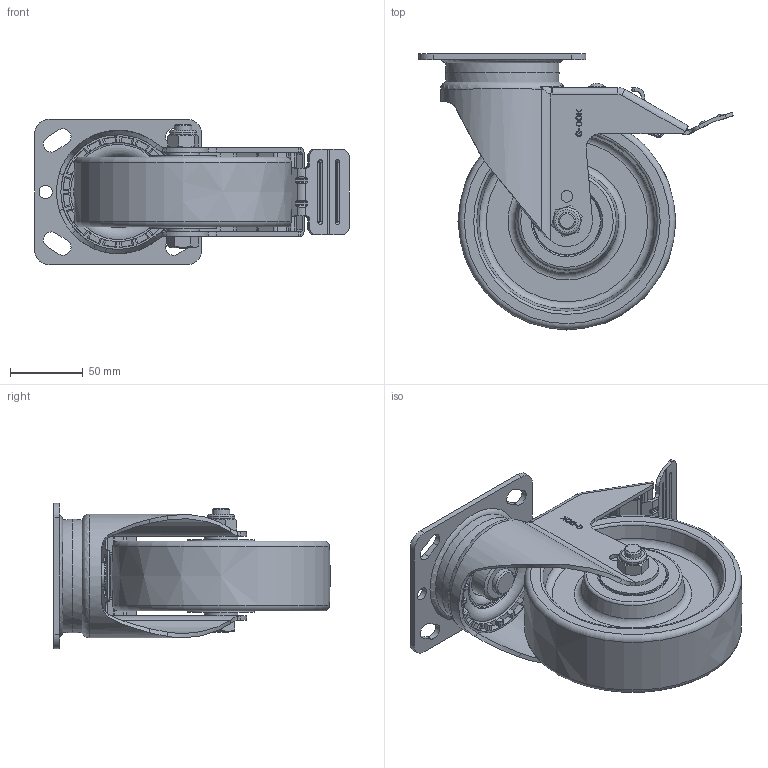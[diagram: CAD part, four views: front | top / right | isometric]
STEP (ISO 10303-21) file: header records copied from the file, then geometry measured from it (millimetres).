
FILE_DESCRIPTION(/* description */ (''),/* implementation_level */ '2;1');
FILE_NAME(/* name */ '\\192.168.10.38\지덕공유\1.기술연구소\2.연구개발 진행중\124.SPH-Series_중하중_2025.02.11\1.도면\2. 3D\홈페이지용\SPH-150-BSF-NYD.stp',/* time_stamp */ '2026-05-19T17:23:01+09:00',/* author */ ('admin'),/* organization */ ('지덕산업'),/* preprocessor_version */ 'ST-DEVELOPER v18.1',/* originating_system */ 'Autodesk Inventor 2021',/* authorisation */ '');
FILE_SCHEMA (('AUTOMOTIVE_DESIGN { 1 0 10303 214 3 1 1 }'));
Products named in the file (1): SPH-150-BSF-NYD
Bounding box: 216.47 x 189.96 x 100 mm (x, y, z)
Volume: 841116.5 mm3; surface area: 169718.2 mm2
Topology: 1 solids, 2 shells, 1543 faces, 4203 edges, 2728 vertices
Faces by surface type: plane 683, bspline 518, cylinder 253, torus 46, cone 42, sphere 1
Full cylindrical faces by diameter (mm): 6 x1, 8 x5, 9 x3, 12 x2, 18 x2, 18.5 x1, 31 x1, 31.177 x1, 46.001 x2, 47 x2
Entity records: 53840 total; most frequent: CARTESIAN_POINT 18004, ORIENTED_EDGE 8370, DIRECTION 5847, EDGE_CURVE 4187, VERTEX_POINT 2728, LINE 2339, VECTOR 2339, AXIS2_PLACEMENT_3D 1754
